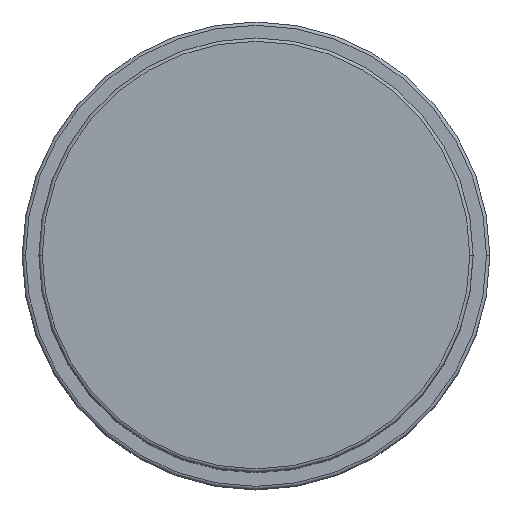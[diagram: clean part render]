
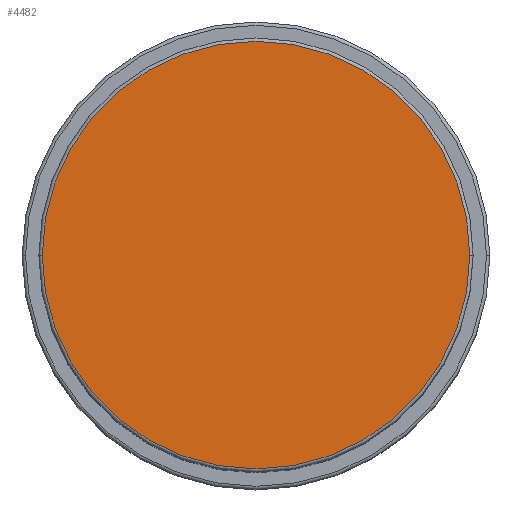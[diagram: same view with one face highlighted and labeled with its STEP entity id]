
A CAD part, top view. The second image highlights one B-rep face of the part: STEP entity #4482.
In plain terms, the highlighted planar face has unit normal (0, 0, 1).
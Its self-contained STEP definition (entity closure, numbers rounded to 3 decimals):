
#24 = DIRECTION ( 'NONE',  ( 1., 0., 0. ) ) ;
#77 = DIRECTION ( 'NONE',  ( 0., 0., 1. ) ) ;
#222 = AXIS2_PLACEMENT_3D ( 'NONE', #3379, #891, #24 ) ;
#422 = CIRCLE ( 'NONE', #222, 32. ) ;
#627 = AXIS2_PLACEMENT_3D ( 'NONE', #4263, #77, #4691 ) ;
#652 = EDGE_CURVE ( 'NONE', #2835, #5086, #422, .T. ) ;
#891 = DIRECTION ( 'NONE',  ( 0., 0., 1. ) ) ;
#1167 = EDGE_LOOP ( 'NONE', ( #5065, #2984 ) ) ;
#1239 = DIRECTION ( 'NONE',  ( 0., 0., 1. ) ) ;
#1606 = PLANE ( 'NONE',  #3566 ) ;
#1811 = EDGE_CURVE ( 'NONE', #5086, #2835, #4948, .T. ) ;
#2679 = CARTESIAN_POINT ( 'NONE',  ( 32., 0., 92. ) ) ;
#2835 = VERTEX_POINT ( 'NONE', #4860 ) ;
#2984 = ORIENTED_EDGE ( 'NONE', *, *, #652, .T. ) ;
#3322 = CARTESIAN_POINT ( 'NONE',  ( 0., 0., 92. ) ) ;
#3379 = CARTESIAN_POINT ( 'NONE',  ( 0., 0., 92. ) ) ;
#3566 = AXIS2_PLACEMENT_3D ( 'NONE', #3322, #1239, #4120 ) ;
#4120 = DIRECTION ( 'NONE',  ( 1., 0., 0. ) ) ;
#4263 = CARTESIAN_POINT ( 'NONE',  ( 0., 0., 92. ) ) ;
#4482 = ADVANCED_FACE ( 'NONE', ( #5141 ), #1606, .T. ) ;
#4691 = DIRECTION ( 'NONE',  ( 1., 0., 0. ) ) ;
#4860 = CARTESIAN_POINT ( 'NONE',  ( -32., 0., 92. ) ) ;
#4948 = CIRCLE ( 'NONE', #627, 32. ) ;
#5065 = ORIENTED_EDGE ( 'NONE', *, *, #1811, .T. ) ;
#5086 = VERTEX_POINT ( 'NONE', #2679 ) ;
#5141 = FACE_OUTER_BOUND ( 'NONE', #1167, .T. ) ;
